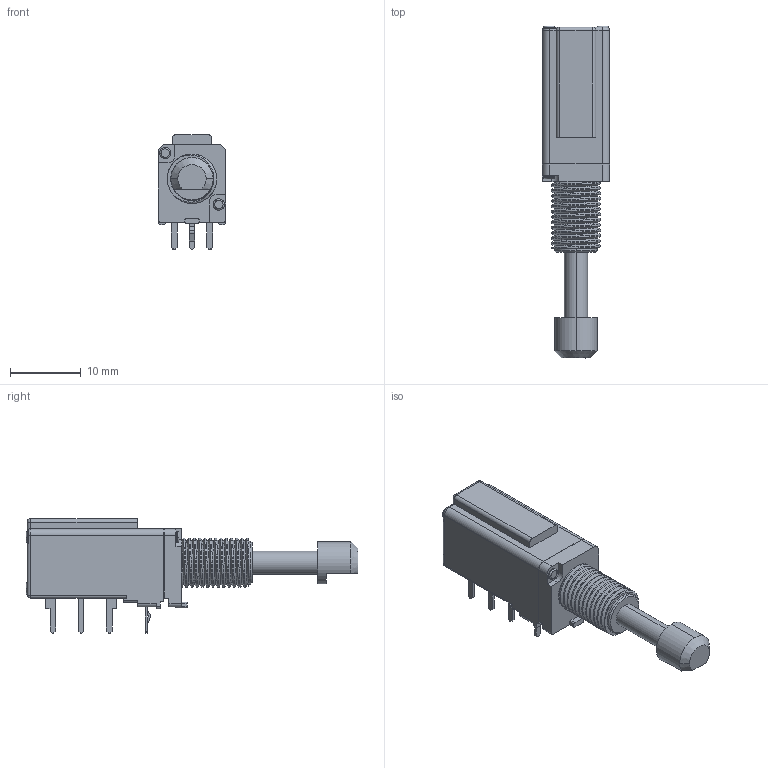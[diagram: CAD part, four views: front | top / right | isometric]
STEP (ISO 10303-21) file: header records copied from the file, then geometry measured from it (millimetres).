
FILE_DESCRIPTION (( 'STEP AP214' ), '1' );
FILE_NAME ('RK097111U00S.STEP', '2017-04-04T02:01:33', ( 'user' ), ( 'Hewlett-Packard Company' ), 'SwSTEP 2.0', 'SolidWorks 2014', '' );
FILE_SCHEMA (( 'AUTOMOTIVE_DESIGN' ));
Length unit declared in the file: millimetre
Products named in the file (1): RK097111U00S
Bounding box: 9.5 x 47.05 x 16.25 mm (x, y, z)
Volume: 2791.9 mm3; surface area: 1798.6 mm2
Topology: 1 solids, 1 shells, 252 faces, 660 edges, 425 vertices
Faces by surface type: plane 134, cylinder 86, torus 18, cone 7, bspline 5, sphere 2
Entity records: 14540 total; most frequent: CARTESIAN_POINT 5704, ORIENTED_EDGE 1314, DIRECTION 1248, EDGE_CURVE 657, VERTEX_POINT 425, VECTOR 420, LINE 420, AXIS2_PLACEMENT_3D 414
